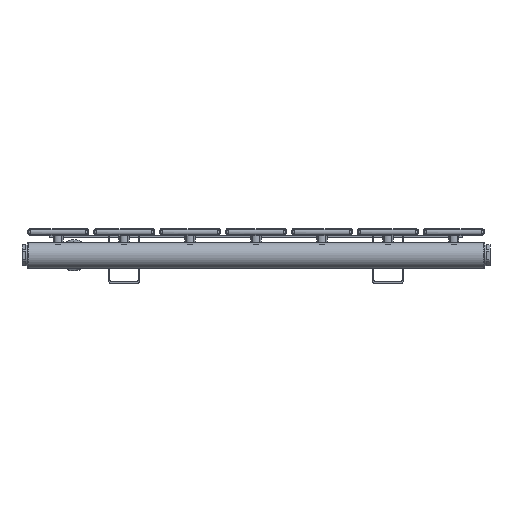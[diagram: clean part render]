
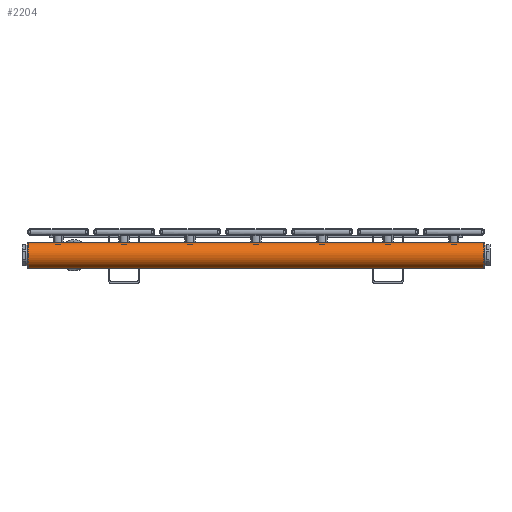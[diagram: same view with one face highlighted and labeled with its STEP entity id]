
A CAD part, left-side view. The second image highlights one B-rep face of the part: STEP entity #2204.
In plain terms, the highlighted cylindrical face has radius 15 mm (diameter 30 mm), a full revolution.
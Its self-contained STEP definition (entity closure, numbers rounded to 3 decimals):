
#656=FACE_BOUND('',#923,.T.);
#773=FACE_OUTER_BOUND('',#922,.T.);
#922=EDGE_LOOP('',(#1958));
#923=EDGE_LOOP('',(#1959));
#1034=CIRCLE('',#2485,15.);
#1035=CIRCLE('',#2487,15.);
#1200=VERTEX_POINT('',#3840);
#1201=VERTEX_POINT('',#3843);
#1462=EDGE_CURVE('',#1200,#1200,#1034,.T.);
#1463=EDGE_CURVE('',#1201,#1201,#1035,.T.);
#1958=ORIENTED_EDGE('',*,*,#1462,.F.);
#1959=ORIENTED_EDGE('',*,*,#1463,.F.);
#2097=CYLINDRICAL_SURFACE('',#2488,15.);
#2204=ADVANCED_FACE('',(#773,#656),#2097,.T.);
#2485=AXIS2_PLACEMENT_3D('',#3841,#3083,#3084);
#2487=AXIS2_PLACEMENT_3D('',#3844,#3087,#3088);
#2488=AXIS2_PLACEMENT_3D('',#3845,#3089,#3090);
#3083=DIRECTION('center_axis',(0.,0.,1.));
#3084=DIRECTION('ref_axis',(-1.,0.,0.));
#3087=DIRECTION('center_axis',(0.,0.,-1.));
#3088=DIRECTION('ref_axis',(-1.,0.,0.));
#3089=DIRECTION('center_axis',(0.,0.,1.));
#3090=DIRECTION('ref_axis',(-1.,0.,0.));
#3840=CARTESIAN_POINT('',(15.,-15.,520.));
#3841=CARTESIAN_POINT('Origin',(0.,-15.,520.));
#3843=CARTESIAN_POINT('',(15.,-15.,0.));
#3844=CARTESIAN_POINT('Origin',(0.,-15.,0.));
#3845=CARTESIAN_POINT('Origin',(0.,-15.,0.));
